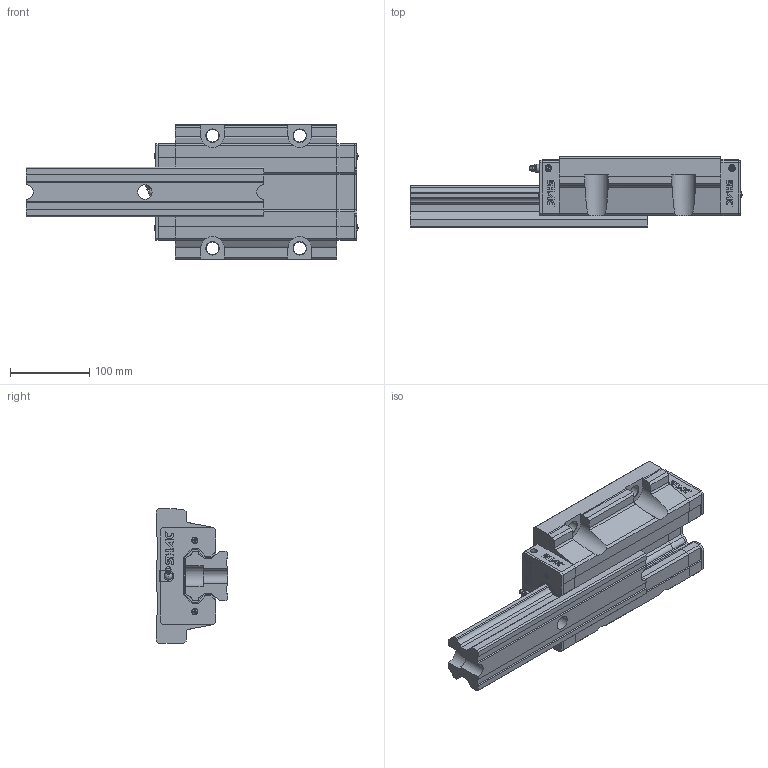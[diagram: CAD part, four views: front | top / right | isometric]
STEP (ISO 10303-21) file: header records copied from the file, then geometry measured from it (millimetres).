
FILE_DESCRIPTION( ( 'STEP AP214' ), '1' );
FILE_NAME( 'F:/品牌/SHAC 台湾鼎翰传动科技有限公司/3D滑块/GHW65HB1R300Z0C-0_0_1_1_.stp', '2025-04-21T22:48:47', ( 'License CC BY-ND 4.0' ), ( 'CADENAS' ), ' ', 'PARTsolutions', ' ' );
FILE_SCHEMA( ( 'AUTOMOTIVE_DESIGN { 1 0 10303 214 1 1 1 1 }' ) );
Length unit declared in the file: millimetre
Products named in the file (8): GHW65HB1R300Z0C-0/0(1_1); _GHR65R300C+RC-0/0(1)_RAIL; _GHW65HB_SLIDER; _GHW65HB_C; _GHW65HB_P; _GH65_SCREW; _GH65_BOLT; _GH65-_G
Assembly tree (12 placements, depth 2):
  GHW65HB1R300Z0C-0/0(1_1)
    _GHR65R300C+RC-0/0(1)_RAIL
    _GHW65HB_SLIDER
    _GHW65HB_C  x2
    _GHW65HB_P  x2
    _GH65_SCREW  x4
    _GH65_BOLT
    _GH65-_G
Bounding box: 418.66 x 90 x 170 mm (x, y, z)
Volume: 2901333.7 mm3; surface area: 300605.8 mm2
Topology: 12 solids, 12 shells, 840 faces, 2254 edges, 1487 vertices
Faces by surface type: plane 684, cylinder 115, cone 26, torus 9, sphere 5, bspline 1
Full cylindrical faces by diameter (mm): 0.992 x4, 4.5 x1, 4.7 x4, 7.35 x2, 7.76 x4, 8 x4, 8.5 x4, 10 x2, 10.5 x2, 16 x4, 18 x1, 26 x1
Entity records: 20811 total; most frequent: CARTESIAN_POINT 3126, ORIENTED_EDGE 2760, DIRECTION 2650, EDGE_CURVE 1380, LINE 1120, VECTOR 1120, VERTEX_POINT 933, AXIS2_PLACEMENT_3D 765
